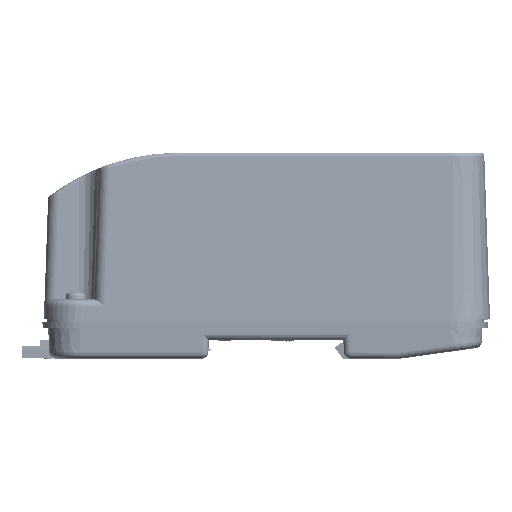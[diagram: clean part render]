
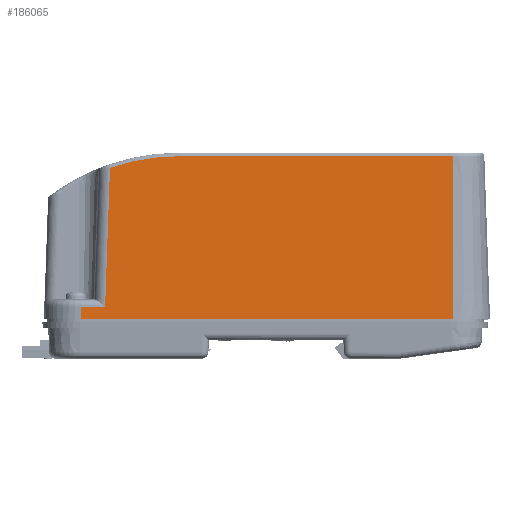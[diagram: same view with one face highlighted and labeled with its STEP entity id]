
A CAD part, left-side view. The second image highlights one B-rep face of the part: STEP entity #186065.
In plain terms, the highlighted planar face has unit normal (-0.999, 0, 0.035).
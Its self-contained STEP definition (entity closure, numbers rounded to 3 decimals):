
#8075=ELLIPSE('',#197368,56.717,56.683);
#9790=PLANE('',#197367);
#17365=FACE_OUTER_BOUND('',#27709,.T.);
#27709=EDGE_LOOP('',(#135372,#135373,#135374,#135375,#135376,#135377,#135378));
#39338=LINE('',#268155,#60502);
#39409=LINE('',#268748,#60573);
#39410=LINE('',#268751,#60574);
#39411=LINE('',#268755,#60575);
#39412=LINE('',#268757,#60576);
#39413=LINE('',#268758,#60577);
#60502=VECTOR('',#212980,10.);
#60573=VECTOR('',#213285,10.);
#60574=VECTOR('',#213288,10.);
#60575=VECTOR('',#213291,10.);
#60576=VECTOR('',#213292,10.);
#60577=VECTOR('',#213293,10.);
#84018=VERTEX_POINT('',#268152);
#84019=VERTEX_POINT('',#268154);
#84113=VERTEX_POINT('',#268746);
#84114=VERTEX_POINT('',#268750);
#84115=VERTEX_POINT('',#268752);
#84116=VERTEX_POINT('',#268754);
#84117=VERTEX_POINT('',#268756);
#103579=EDGE_CURVE('',#84018,#84019,#39338,.T.);
#103732=EDGE_CURVE('',#84018,#84113,#39409,.T.);
#103733=EDGE_CURVE('',#84114,#84113,#39410,.T.);
#103734=EDGE_CURVE('',#84115,#84114,#8075,.T.);
#103735=EDGE_CURVE('',#84115,#84116,#39411,.T.);
#103736=EDGE_CURVE('',#84117,#84116,#39412,.T.);
#103737=EDGE_CURVE('',#84019,#84117,#39413,.T.);
#135372=ORIENTED_EDGE('',*,*,#103579,.F.);
#135373=ORIENTED_EDGE('',*,*,#103732,.T.);
#135374=ORIENTED_EDGE('',*,*,#103733,.F.);
#135375=ORIENTED_EDGE('',*,*,#103734,.F.);
#135376=ORIENTED_EDGE('',*,*,#103735,.T.);
#135377=ORIENTED_EDGE('',*,*,#103736,.F.);
#135378=ORIENTED_EDGE('',*,*,#103737,.F.);
#186065=ADVANCED_FACE('',(#17365),#9790,.T.);
#197367=AXIS2_PLACEMENT_3D('',#268749,#213286,#213287);
#197368=AXIS2_PLACEMENT_3D('',#268753,#213289,#213290);
#212980=DIRECTION('',(0.,1.,0.));
#213285=DIRECTION('',(0.035,0.,0.999));
#213286=DIRECTION('center_axis',(-0.999,0.,0.035));
#213287=DIRECTION('ref_axis',(0.,-1.,0.));
#213288=DIRECTION('',(0.,-1.,0.));
#213289=DIRECTION('center_axis',(0.999,0.,-0.035));
#213290=DIRECTION('ref_axis',(0.035,0.,0.999));
#213291=DIRECTION('',(-0.035,0.035,-0.999));
#213292=DIRECTION('',(0.,-1.,0.));
#213293=DIRECTION('',(0.035,0.,0.999));
#268152=CARTESIAN_POINT('',(-150.476,-49.565,-1.2));
#268154=CARTESIAN_POINT('',(-150.476,50.435,-1.2));
#268155=CARTESIAN_POINT('',(-150.476,-54.565,-1.2));
#268746=CARTESIAN_POINT('',(-148.949,-49.565,42.535));
#268748=CARTESIAN_POINT('',(-150.435,-49.565,0.));
#268749=CARTESIAN_POINT('Origin',(-150.435,-49.565,0.));
#268750=CARTESIAN_POINT('',(-148.949,24.115,42.535));
#268751=CARTESIAN_POINT('',(-148.949,-18.552,42.535));
#268752=CARTESIAN_POINT('',(-149.058,42.685,39.407));
#268753=CARTESIAN_POINT('Origin',(-150.929,24.115,-14.148));
#268754=CARTESIAN_POINT('',(-150.362,43.989,2.07));
#268755=CARTESIAN_POINT('',(-150.304,43.931,3.742));
#268756=CARTESIAN_POINT('',(-150.362,50.435,2.07));
#268757=CARTESIAN_POINT('',(-150.362,3.138,2.07));
#268758=CARTESIAN_POINT('',(-150.435,50.435,0.));
